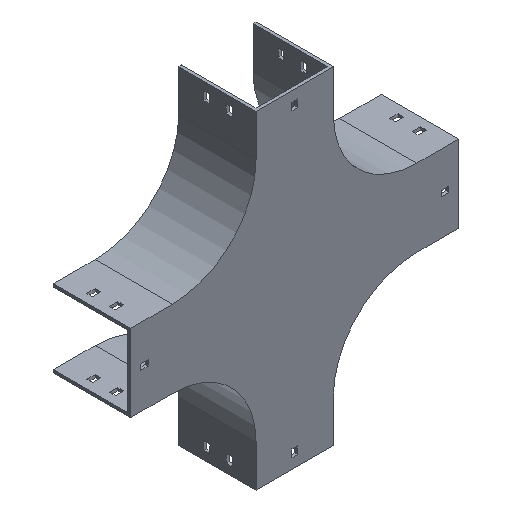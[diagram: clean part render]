
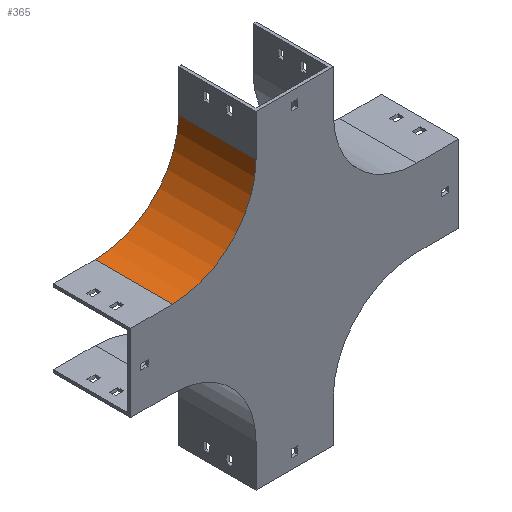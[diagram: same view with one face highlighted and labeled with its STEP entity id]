
A CAD part, isometric view. The second image highlights one B-rep face of the part: STEP entity #365.
In plain terms, the highlighted cylindrical face has radius 100 mm (diameter 200 mm), a partial arc.
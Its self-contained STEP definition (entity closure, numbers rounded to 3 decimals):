
#55 = LINE ( 'NONE', #1544, #470 ) ;
#65 = CARTESIAN_POINT ( 'NONE',  ( -292.5, 92.5, 0. ) ) ;
#175 = CARTESIAN_POINT ( 'NONE',  ( -292.5, 92.5, -100. ) ) ;
#186 = ORIENTED_EDGE ( 'NONE', *, *, #3047, .F. ) ;
#223 = VECTOR ( 'NONE', #2812, 1000. ) ;
#301 = CARTESIAN_POINT ( 'NONE',  ( -192.5, 92.5, 0. ) ) ;
#365 = ADVANCED_FACE ( 'NONE', ( #2661 ), #393, .F. ) ;
#368 = DIRECTION ( 'NONE',  ( 0., -1., 0. ) ) ;
#393 = CYLINDRICAL_SURFACE ( 'NONE', #1897, 100. ) ;
#470 = VECTOR ( 'NONE', #958, 1000. ) ;
#477 = AXIS2_PLACEMENT_3D ( 'NONE', #2970, #368, #1206 ) ;
#547 = ORIENTED_EDGE ( 'NONE', *, *, #2833, .T. ) ;
#594 = CARTESIAN_POINT ( 'NONE',  ( -292.5, 92.5, 0. ) ) ;
#645 = VERTEX_POINT ( 'NONE', #2105 ) ;
#709 = DIRECTION ( 'NONE',  ( 0., 0., -1. ) ) ;
#937 = DIRECTION ( 'NONE',  ( 0., 0., 1. ) ) ;
#958 = DIRECTION ( 'NONE',  ( 0., -1., 0. ) ) ;
#969 = VERTEX_POINT ( 'NONE', #1814 ) ;
#1100 = ORIENTED_EDGE ( 'NONE', *, *, #3742, .T. ) ;
#1206 = DIRECTION ( 'NONE',  ( 0., 0., 1. ) ) ;
#1542 = DIRECTION ( 'NONE',  ( 0., -1., 0. ) ) ;
#1544 = CARTESIAN_POINT ( 'NONE',  ( -192.5, 92.5, 0. ) ) ;
#1814 = CARTESIAN_POINT ( 'NONE',  ( -292.5, 0., -100. ) ) ;
#1846 = DIRECTION ( 'NONE',  ( 0., -1., 0. ) ) ;
#1869 = EDGE_LOOP ( 'NONE', ( #1100, #186, #3590, #547 ) ) ;
#1897 = AXIS2_PLACEMENT_3D ( 'NONE', #65, #1846, #709 ) ;
#2105 = CARTESIAN_POINT ( 'NONE',  ( -192.5, 0., 0. ) ) ;
#2237 = LINE ( 'NONE', #175, #223 ) ;
#2661 = FACE_OUTER_BOUND ( 'NONE', #1869, .T. ) ;
#2812 = DIRECTION ( 'NONE',  ( 0., -1., 0. ) ) ;
#2833 = EDGE_CURVE ( 'NONE', #2919, #969, #2237, .T. ) ;
#2844 = CIRCLE ( 'NONE', #477, 100. ) ;
#2919 = VERTEX_POINT ( 'NONE', #3132 ) ;
#2970 = CARTESIAN_POINT ( 'NONE',  ( -292.5, 0., 0. ) ) ;
#2991 = VERTEX_POINT ( 'NONE', #301 ) ;
#3047 = EDGE_CURVE ( 'NONE', #2991, #645, #55, .T. ) ;
#3132 = CARTESIAN_POINT ( 'NONE',  ( -292.5, 92.5, -100. ) ) ;
#3416 = EDGE_CURVE ( 'NONE', #2919, #2991, #3701, .T. ) ;
#3590 = ORIENTED_EDGE ( 'NONE', *, *, #3416, .F. ) ;
#3701 = CIRCLE ( 'NONE', #3764, 100. ) ;
#3742 = EDGE_CURVE ( 'NONE', #969, #645, #2844, .T. ) ;
#3764 = AXIS2_PLACEMENT_3D ( 'NONE', #594, #1542, #937 ) ;
